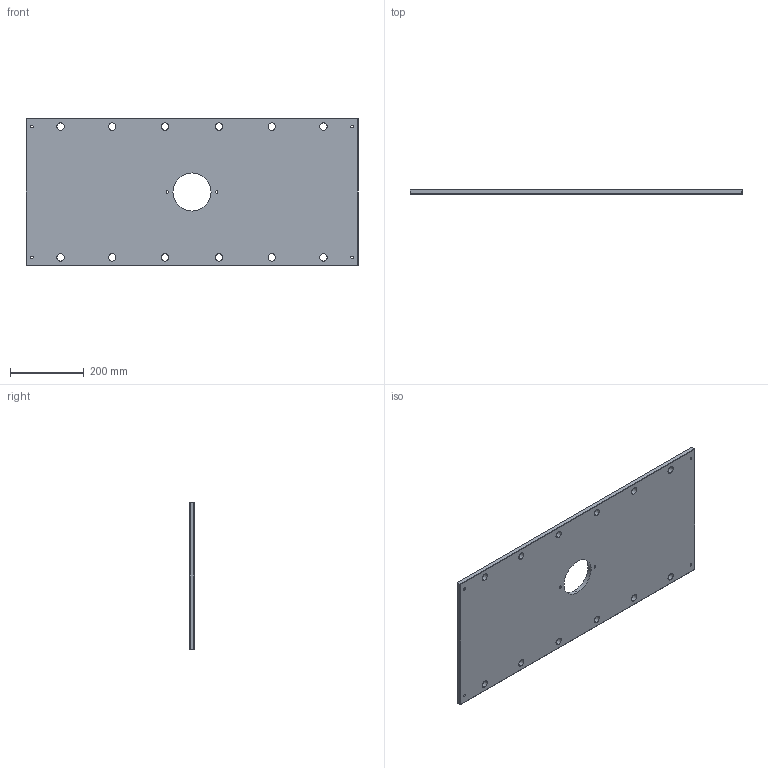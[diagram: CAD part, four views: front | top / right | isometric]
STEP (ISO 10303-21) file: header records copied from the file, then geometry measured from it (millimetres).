
FILE_DESCRIPTION (( 'STEP AP214' ), '1' );
FILE_NAME ('ME-0619-CH-1635.STEP', '2020-02-12T16:25:30', ( '' ), ( '' ), 'SwSTEP 2.0', 'SolidWorks 2018', '' );
FILE_SCHEMA (( 'AUTOMOTIVE_DESIGN' ));
Length unit declared in the file: inch
Products named in the file (1): ME-0619-CH-1635
Bounding box: 898.52 x 12.7 x 400.05 mm (x, y, z)
Volume: 4403499.7 mm3; surface area: 738501.8 mm2
Topology: 1 solids, 1 shells, 76 faces, 186 edges, 112 vertices
Faces by surface type: cylinder 38, plane 26, cone 12
Entity records: 2346 total; most frequent: DIRECTION 428, CARTESIAN_POINT 375, ORIENTED_EDGE 372, EDGE_CURVE 186, AXIS2_PLACEMENT_3D 165, EDGE_LOOP 114, VERTEX_POINT 112, VECTOR 98
